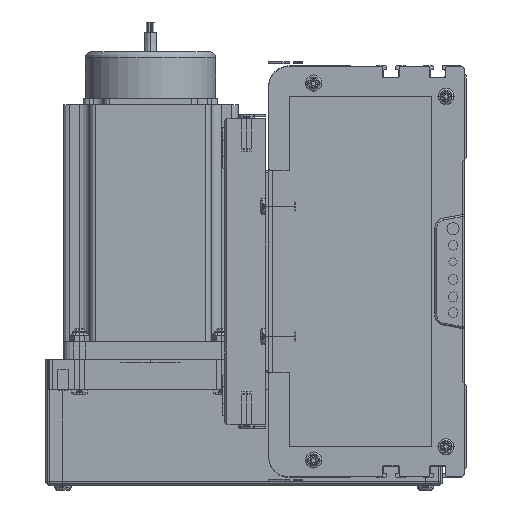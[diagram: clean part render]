
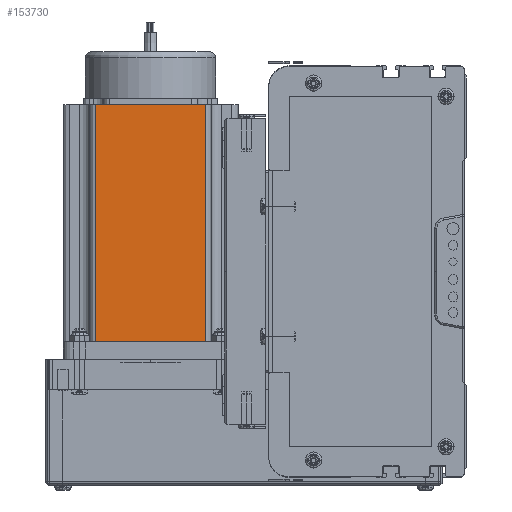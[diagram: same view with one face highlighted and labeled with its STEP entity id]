
A CAD part, left-side view. The second image highlights one B-rep face of the part: STEP entity #153730.
In plain terms, the highlighted planar face has unit normal (-1, 0, 0) as drawn and (0, -1, 0) by its records, which use the part's own axes.
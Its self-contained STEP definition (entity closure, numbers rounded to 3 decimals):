
#132958 = CARTESIAN_POINT ( 'NONE',  ( 69.74, 0., 0. ) ) ;
#132980 = VECTOR ( 'NONE', #133029, 1000. ) ;
#132981 = CARTESIAN_POINT ( 'NONE',  ( 0., 0., 0. ) ) ;
#132982 = LINE ( 'NONE', #132981, #132980 ) ;
#133029 = DIRECTION ( 'NONE',  ( 1., 0., 0. ) ) ;
#133093 = AXIS2_PLACEMENT_3D ( 'NONE', #133124, #133123, #133154 ) ;
#133120 = PLANE ( 'NONE',  #133093 ) ;
#133122 = CARTESIAN_POINT ( 'NONE',  ( 16.16, 0., 0. ) ) ;
#133123 = DIRECTION ( 'NONE',  ( 0., 1., 0. ) ) ;
#133124 = CARTESIAN_POINT ( 'NONE',  ( 0., 0., 116.5 ) ) ;
#133154 = DIRECTION ( 'NONE',  ( 0., 0., 1. ) ) ;
#133168 = FACE_OUTER_BOUND ( 'NONE', #153852, .T. ) ;
#133211 = CARTESIAN_POINT ( 'NONE',  ( 69.74, 0., 116.5 ) ) ;
#133280 = DIRECTION ( 'NONE',  ( 0., 0., 1. ) ) ;
#133281 = VECTOR ( 'NONE', #133280, 1000. ) ;
#133284 = CARTESIAN_POINT ( 'NONE',  ( 69.74, 0., 116.5 ) ) ;
#133285 = LINE ( 'NONE', #133284, #133281 ) ;
#150309 = ORIENTED_EDGE ( 'NONE', *, *, #150756, .F. ) ;
#150711 = VERTEX_POINT ( 'NONE', #157878 ) ;
#150756 = EDGE_CURVE ( 'NONE', #150711, #153753, #158138, .T. ) ;
#150842 = ORIENTED_EDGE ( 'NONE', *, *, #150844, .T. ) ;
#150844 = EDGE_CURVE ( 'NONE', #150711, #153725, #158520, .T. ) ;
#153578 = VERTEX_POINT ( 'NONE', #132958 ) ;
#153607 = EDGE_CURVE ( 'NONE', #153725, #153578, #132982, .T. ) ;
#153725 = VERTEX_POINT ( 'NONE', #133122 ) ;
#153730 = ADVANCED_FACE ( 'NONE', ( #133168 ), #133120, .F. ) ;
#153753 = VERTEX_POINT ( 'NONE', #133211 ) ;
#153852 = EDGE_LOOP ( 'NONE', ( #153882, #153893, #150309, #150842 ) ) ;
#153855 = EDGE_CURVE ( 'NONE', #153578, #153753, #133285, .T. ) ;
#153882 = ORIENTED_EDGE ( 'NONE', *, *, #153607, .T. ) ;
#153893 = ORIENTED_EDGE ( 'NONE', *, *, #153855, .T. ) ;
#157878 = CARTESIAN_POINT ( 'NONE',  ( 16.16, 0., 116.5 ) ) ;
#158138 = LINE ( 'NONE', #158145, #158142 ) ;
#158142 = VECTOR ( 'NONE', #158232, 1000. ) ;
#158145 = CARTESIAN_POINT ( 'NONE',  ( 0., 0., 116.5 ) ) ;
#158232 = DIRECTION ( 'NONE',  ( 1., 0., 0. ) ) ;
#158516 = DIRECTION ( 'NONE',  ( 0., 0., -1. ) ) ;
#158517 = VECTOR ( 'NONE', #158516, 1000. ) ;
#158519 = CARTESIAN_POINT ( 'NONE',  ( 16.16, 0., 116.5 ) ) ;
#158520 = LINE ( 'NONE', #158519, #158517 ) ;
